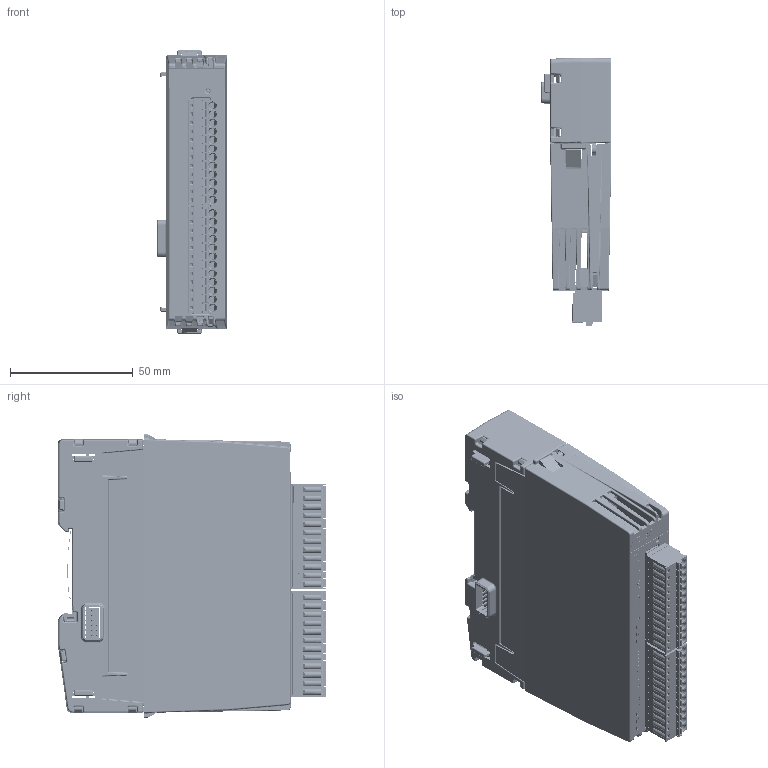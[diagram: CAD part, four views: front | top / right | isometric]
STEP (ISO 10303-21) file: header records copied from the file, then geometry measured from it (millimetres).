
FILE_DESCRIPTION(/* description */ (''),/* implementation_level */ '2;1');
FILE_NAME(/* name */ 'C:\Users\Public\Documents\Autodesk\Inventor 2023\AI08A_Simplified+BackBB21B.stp',/* time_stamp */ '2024-10-15T21:20:52+02:00',/* author */ ('shoma'),/* organization */ (''),/* preprocessor_version */ 'ST-DEVELOPER v19',/* originating_system */ 'Autodesk Inventor 2023',/* authorisation */ '');
FILE_SCHEMA (('AUTOMOTIVE_DESIGN { 1 0 10303 214 3 1 1 }'));
Products named in the file (1): AI08A_Simplified+BackBB21B
Bounding box: 28.9 x 109.39 x 115.5 mm (x, y, z)
Volume: 153432.3 mm3; surface area: 92866 mm2
Topology: 8 solids, 56 shells, 9297 faces, 24608 edges, 15506 vertices
Faces by surface type: plane 5600, cylinder 2391, bspline 866, cone 233, sphere 162, torus 45
Full cylindrical faces by diameter (mm): 0.296 x2, 0.3 x152, 0.457 x2, 0.7 x36, 0.8 x6, 0.85 x24, 0.9 x8, 1.17 x24, 1.2 x24, 1.25 x24, 1.3 x24, 1.4 x4, 1.6 x26, 2.35 x2, 2.5 x1, 3 x1, 3.1 x24, 3.25 x2
Entity records: 321206 total; most frequent: CARTESIAN_POINT 82645, ORIENTED_EDGE 48910, DIRECTION 45416, EDGE_CURVE 24455, LINE 17232, VECTOR 17232, VERTEX_POINT 15506, AXIS2_PLACEMENT_3D 14092
